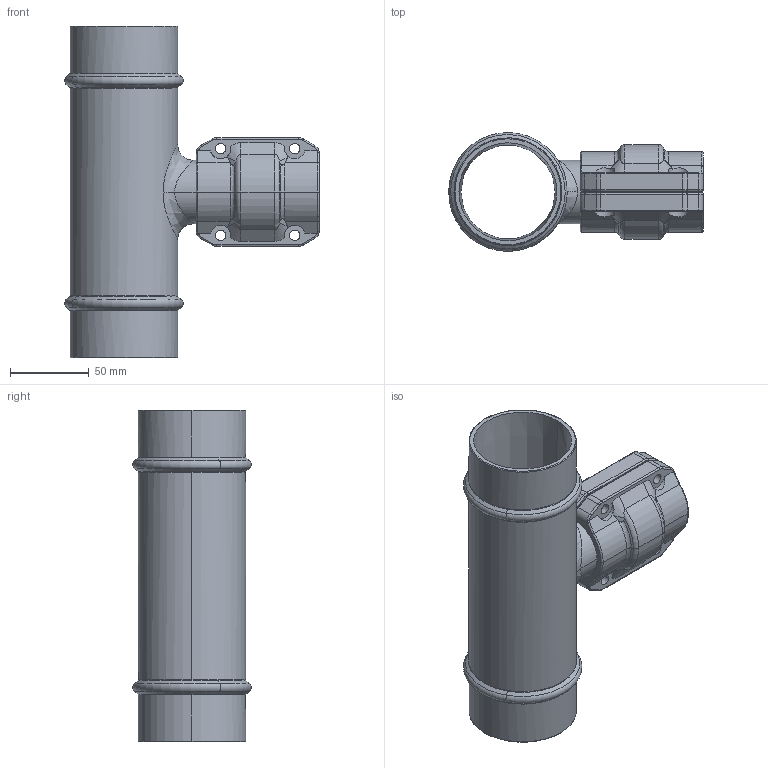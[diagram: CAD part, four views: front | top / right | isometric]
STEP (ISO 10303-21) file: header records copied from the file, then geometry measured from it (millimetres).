
FILE_DESCRIPTION(/* description */ (''),/* implementation_level */ '2;1');
FILE_NAME(/* name */ '6407_stp_stp.stp',/* time_stamp */ '2025-06-23T12:40:50+08:00',/* author */ (''),/* organization */ (''),/* preprocessor_version */ 'ST-DEVELOPER v11',/* originating_system */ 'SIEMENS PLM Software NX 7.5',/* authorisation */ '');
FILE_SCHEMA (('CONFIG_CONTROL_DESIGN'));
Length unit declared in the file: millimetre
Products named in the file (1): AdmiCFA3ahqt
Bounding box: 161.19 x 74.98 x 210 mm (x, y, z)
Volume: 257977.2 mm3; surface area: 133876.5 mm2
Topology: 3 solids, 3 shells, 655 faces, 1623 edges, 951 vertices
Faces by surface type: cylinder 228, torus 159, bspline 103, plane 83, cone 66, sphere 16
Entity records: 27759 total; most frequent: CARTESIAN_POINT 13201, ORIENTED_EDGE 3194, DIRECTION 2822, EDGE_CURVE 1597, AXIS2_PLACEMENT_3D 1175, VERTEX_POINT 951, EDGE_LOOP 678, ADVANCED_FACE 655
